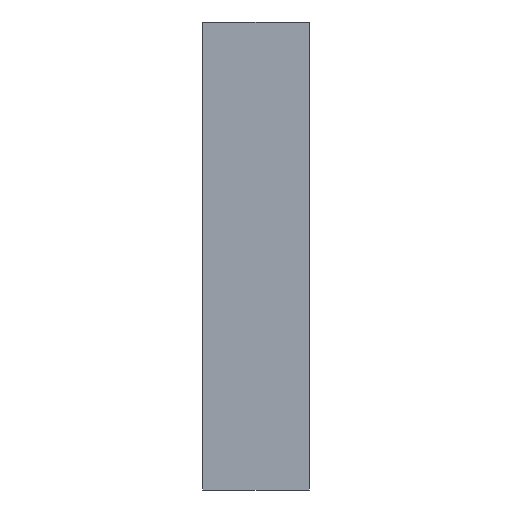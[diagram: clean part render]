
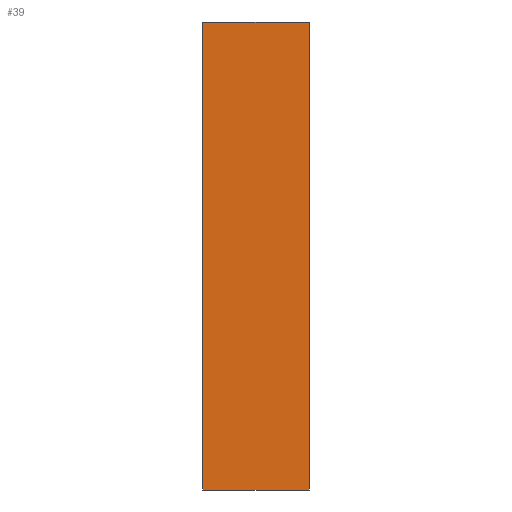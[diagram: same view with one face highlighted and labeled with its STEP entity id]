
A CAD part, left-side view. The second image highlights one B-rep face of the part: STEP entity #39.
In plain terms, the highlighted planar face has unit normal (-1, 0, 0).
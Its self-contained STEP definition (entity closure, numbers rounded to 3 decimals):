
#14 = DIRECTION ( 'NONE',  ( 0., 0., 1. ) ) ;
#39 = ADVANCED_FACE ( 'NONE', ( #183 ), #664, .F. ) ;
#41 = DIRECTION ( 'NONE',  ( 0., 0., -1. ) ) ;
#69 = EDGE_LOOP ( 'NONE', ( #499, #404, #152, #936 ) ) ;
#73 = EDGE_CURVE ( 'NONE', #571, #140, #915, .T. ) ;
#96 = VERTEX_POINT ( 'NONE', #207 ) ;
#122 = AXIS2_PLACEMENT_3D ( 'NONE', #822, #186, #41 ) ;
#138 = CARTESIAN_POINT ( 'NONE',  ( -123., 0., 123. ) ) ;
#140 = VERTEX_POINT ( 'NONE', #925 ) ;
#146 = EDGE_CURVE ( 'NONE', #379, #96, #441, .T. ) ;
#152 = ORIENTED_EDGE ( 'NONE', *, *, #184, .F. ) ;
#183 = FACE_OUTER_BOUND ( 'NONE', #69, .T. ) ;
#184 = EDGE_CURVE ( 'NONE', #379, #571, #390, .T. ) ;
#186 = DIRECTION ( 'NONE',  ( 1., 0., 0. ) ) ;
#202 = LINE ( 'NONE', #138, #824 ) ;
#205 = VECTOR ( 'NONE', #14, 1000. ) ;
#207 = CARTESIAN_POINT ( 'NONE',  ( -123., 0., -123. ) ) ;
#379 = VERTEX_POINT ( 'NONE', #416 ) ;
#390 = LINE ( 'NONE', #886, #205 ) ;
#404 = ORIENTED_EDGE ( 'NONE', *, *, #73, .F. ) ;
#416 = CARTESIAN_POINT ( 'NONE',  ( -123., 56., -123. ) ) ;
#441 = LINE ( 'NONE', #739, #948 ) ;
#468 = CARTESIAN_POINT ( 'NONE',  ( -123., 56., 123. ) ) ;
#469 = EDGE_CURVE ( 'NONE', #96, #140, #202, .T. ) ;
#471 = DIRECTION ( 'NONE',  ( 0., 0., 1. ) ) ;
#499 = ORIENTED_EDGE ( 'NONE', *, *, #469, .T. ) ;
#504 = VECTOR ( 'NONE', #766, 1000. ) ;
#571 = VERTEX_POINT ( 'NONE', #468 ) ;
#610 = DIRECTION ( 'NONE',  ( 0., -1., 0. ) ) ;
#664 = PLANE ( 'NONE',  #122 ) ;
#739 = CARTESIAN_POINT ( 'NONE',  ( -123., 56., -123. ) ) ;
#766 = DIRECTION ( 'NONE',  ( 0., -1., 0. ) ) ;
#822 = CARTESIAN_POINT ( 'NONE',  ( -123., 56., 123. ) ) ;
#824 = VECTOR ( 'NONE', #471, 1000. ) ;
#886 = CARTESIAN_POINT ( 'NONE',  ( -123., 56., 123. ) ) ;
#908 = CARTESIAN_POINT ( 'NONE',  ( -123., 56., 123. ) ) ;
#915 = LINE ( 'NONE', #908, #504 ) ;
#925 = CARTESIAN_POINT ( 'NONE',  ( -123., 0., 123. ) ) ;
#936 = ORIENTED_EDGE ( 'NONE', *, *, #146, .T. ) ;
#948 = VECTOR ( 'NONE', #610, 1000. ) ;
